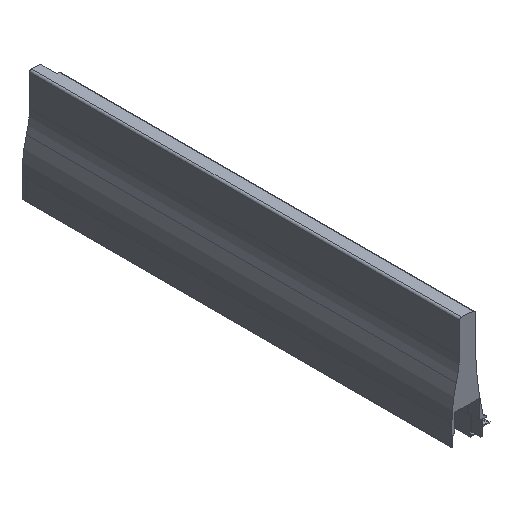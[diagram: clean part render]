
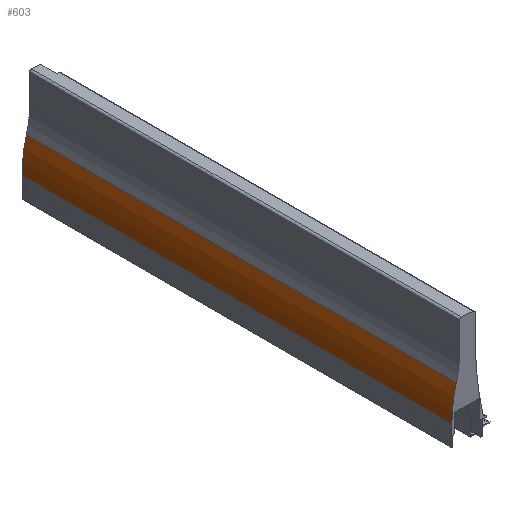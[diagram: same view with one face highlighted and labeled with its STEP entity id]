
A CAD part, isometric view. The second image highlights one B-rep face of the part: STEP entity #603.
In plain terms, the highlighted cylindrical face has radius 130.3 mm (diameter 260.6 mm), a partial arc.
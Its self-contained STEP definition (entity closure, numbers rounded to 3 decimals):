
#17 = CARTESIAN_POINT ( 'NONE',  ( -4.1, 0., -7.695 ) ) ;
#21 = CARTESIAN_POINT ( 'NONE',  ( 0.401, 0., 26.255 ) ) ;
#151 = CARTESIAN_POINT ( 'NONE',  ( -4.1, 440., -7.695 ) ) ;
#165 = VERTEX_POINT ( 'NONE', #367 ) ;
#346 = VERTEX_POINT ( 'NONE', #17 ) ;
#353 = VERTEX_POINT ( 'NONE', #21 ) ;
#367 = CARTESIAN_POINT ( 'NONE',  ( 0.401, 440., 26.255 ) ) ;
#393 = VERTEX_POINT ( 'NONE', #151 ) ;
#603 = ADVANCED_FACE ( 'NONE', ( #1622 ), #1618, .T. ) ;
#1144 = ORIENTED_EDGE ( 'NONE', *, *, #3895, .F. ) ;
#1145 = ORIENTED_EDGE ( 'NONE', *, *, #3948, .F. ) ;
#1150 = ORIENTED_EDGE ( 'NONE', *, *, #3699, .T. ) ;
#1151 = ORIENTED_EDGE ( 'NONE', *, *, #4092, .T. ) ;
#1219 = EDGE_LOOP ( 'NONE', ( #1145, #1144, #1151, #1150 ) ) ;
#1618 = CYLINDRICAL_SURFACE ( 'NONE', #3902, 130.3 ) ;
#1622 = FACE_OUTER_BOUND ( 'NONE', #1219, .T. ) ;
#1763 = LINE ( 'NONE', #3089, #1771 ) ;
#1771 = VECTOR ( 'NONE', #3094, 1000. ) ;
#1984 = LINE ( 'NONE', #3346, #1997 ) ;
#1997 = VECTOR ( 'NONE', #3349, 1000. ) ;
#2062 = CIRCLE ( 'NONE', #3747, 130.3 ) ;
#2250 = CIRCLE ( 'NONE', #3810, 130.3 ) ;
#2725 = DIRECTION ( 'NONE',  ( -1., 0., 0. ) ) ;
#2726 = DIRECTION ( 'NONE',  ( 0., -1., 0. ) ) ;
#2727 = CARTESIAN_POINT ( 'NONE',  ( 126.2, 440., -7.695 ) ) ;
#3089 = CARTESIAN_POINT ( 'NONE',  ( -4.1, 440., -7.695 ) ) ;
#3094 = DIRECTION ( 'NONE',  ( 0., -1., 0. ) ) ;
#3346 = CARTESIAN_POINT ( 'NONE',  ( 0.401, 440., 26.255 ) ) ;
#3349 = DIRECTION ( 'NONE',  ( 0., -1., 0. ) ) ;
#3419 = CARTESIAN_POINT ( 'NONE',  ( 126.2, 0., -7.695 ) ) ;
#3420 = DIRECTION ( 'NONE',  ( 0., -1., 0. ) ) ;
#3421 = DIRECTION ( 'NONE',  ( 1., 0., 0. ) ) ;
#3632 = CARTESIAN_POINT ( 'NONE',  ( 126.2, 440., -7.695 ) ) ;
#3638 = DIRECTION ( 'NONE',  ( 0., -1., 0. ) ) ;
#3639 = DIRECTION ( 'NONE',  ( 1., 0., 0. ) ) ;
#3699 = EDGE_CURVE ( 'NONE', #393, #346, #1763, .T. ) ;
#3747 = AXIS2_PLACEMENT_3D ( 'NONE', #3419, #3420, #3421 ) ;
#3810 = AXIS2_PLACEMENT_3D ( 'NONE', #3632, #3638, #3639 ) ;
#3895 = EDGE_CURVE ( 'NONE', #165, #353, #1984, .T. ) ;
#3902 = AXIS2_PLACEMENT_3D ( 'NONE', #2727, #2726, #2725 ) ;
#3948 = EDGE_CURVE ( 'NONE', #353, #346, #2062, .T. ) ;
#4092 = EDGE_CURVE ( 'NONE', #165, #393, #2250, .T. ) ;
